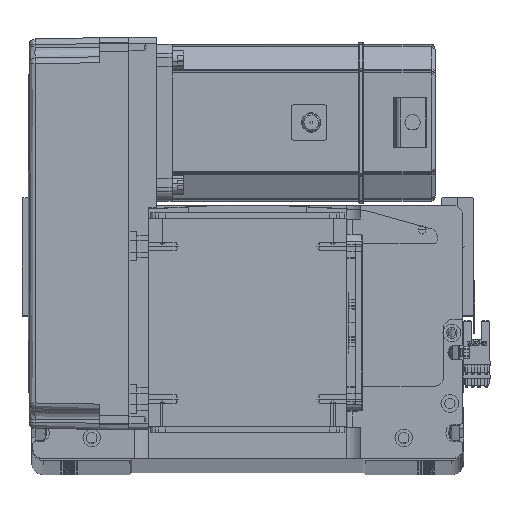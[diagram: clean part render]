
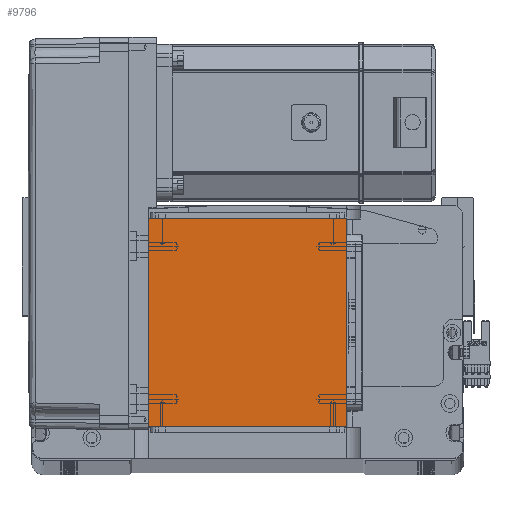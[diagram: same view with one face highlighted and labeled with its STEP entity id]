
A CAD part, top view. The second image highlights one B-rep face of the part: STEP entity #9796.
In plain terms, the highlighted planar face has unit normal (0, 0, 1).
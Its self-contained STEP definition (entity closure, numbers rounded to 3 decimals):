
#2165 = EDGE_CURVE ( 'NONE', #57524, #35917, #57147, .T. ) ;
#3254 = VECTOR ( 'NONE', #3807, 1000. ) ;
#3807 = DIRECTION ( 'NONE',  ( -1., 0., 0. ) ) ;
#4519 = ORIENTED_EDGE ( 'NONE', *, *, #2165, .T. ) ;
#8695 = CARTESIAN_POINT ( 'NONE',  ( -50.5, 122., 115. ) ) ;
#9796 = ADVANCED_FACE ( 'NONE', ( #54244 ), #60384, .T. ) ;
#12225 = DIRECTION ( 'NONE',  ( 1., 0., 0. ) ) ;
#20624 = LINE ( 'NONE', #31026, #38060 ) ;
#23920 = VECTOR ( 'NONE', #57779, 1000. ) ;
#25485 = VERTEX_POINT ( 'NONE', #40490 ) ;
#26644 = CARTESIAN_POINT ( 'NONE',  ( 0., 0., 115. ) ) ;
#26969 = LINE ( 'NONE', #35041, #23920 ) ;
#27669 = EDGE_CURVE ( 'NONE', #25485, #32113, #37268, .T. ) ;
#31011 = CARTESIAN_POINT ( 'NONE',  ( 50.5, 122., 115. ) ) ;
#31026 = CARTESIAN_POINT ( 'NONE',  ( 50.5, 122., 115. ) ) ;
#31441 = DIRECTION ( 'NONE',  ( 0., 1., 0. ) ) ;
#32113 = VERTEX_POINT ( 'NONE', #36585 ) ;
#32511 = CARTESIAN_POINT ( 'NONE',  ( -50.5, 122., 115. ) ) ;
#35041 = CARTESIAN_POINT ( 'NONE',  ( -50.5, 122., 115. ) ) ;
#35917 = VERTEX_POINT ( 'NONE', #32511 ) ;
#36173 = CARTESIAN_POINT ( 'NONE',  ( -50.5, 16., 115. ) ) ;
#36585 = CARTESIAN_POINT ( 'NONE',  ( 50.5, 16., 115. ) ) ;
#37268 = LINE ( 'NONE', #36173, #48673 ) ;
#37284 = EDGE_CURVE ( 'NONE', #32113, #57524, #20624, .T. ) ;
#38060 = VECTOR ( 'NONE', #31441, 1000. ) ;
#40490 = CARTESIAN_POINT ( 'NONE',  ( -50.5, 16., 115. ) ) ;
#45564 = DIRECTION ( 'NONE',  ( 1., 0., 0. ) ) ;
#45969 = DIRECTION ( 'NONE',  ( 0., 0., 1. ) ) ;
#48406 = AXIS2_PLACEMENT_3D ( 'NONE', #26644, #45969, #45564 ) ;
#48673 = VECTOR ( 'NONE', #12225, 1000. ) ;
#51185 = ORIENTED_EDGE ( 'NONE', *, *, #37284, .T. ) ;
#54244 = FACE_OUTER_BOUND ( 'NONE', #62694, .T. ) ;
#57147 = LINE ( 'NONE', #8695, #3254 ) ;
#57524 = VERTEX_POINT ( 'NONE', #31011 ) ;
#57779 = DIRECTION ( 'NONE',  ( 0., -1., 0. ) ) ;
#58147 = ORIENTED_EDGE ( 'NONE', *, *, #59607, .T. ) ;
#58704 = ORIENTED_EDGE ( 'NONE', *, *, #27669, .T. ) ;
#59607 = EDGE_CURVE ( 'NONE', #35917, #25485, #26969, .T. ) ;
#60384 = PLANE ( 'NONE',  #48406 ) ;
#62694 = EDGE_LOOP ( 'NONE', ( #58147, #58704, #51185, #4519 ) ) ;
